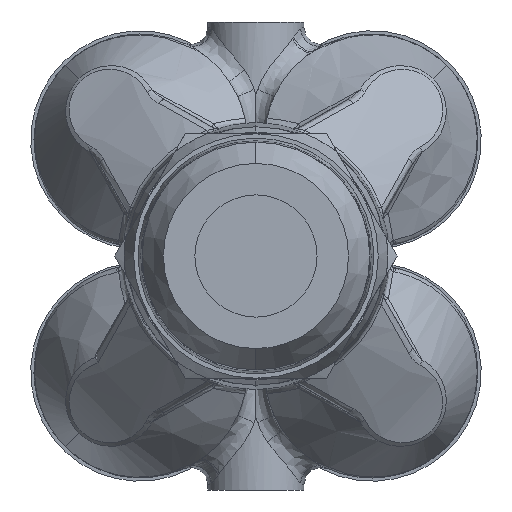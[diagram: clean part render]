
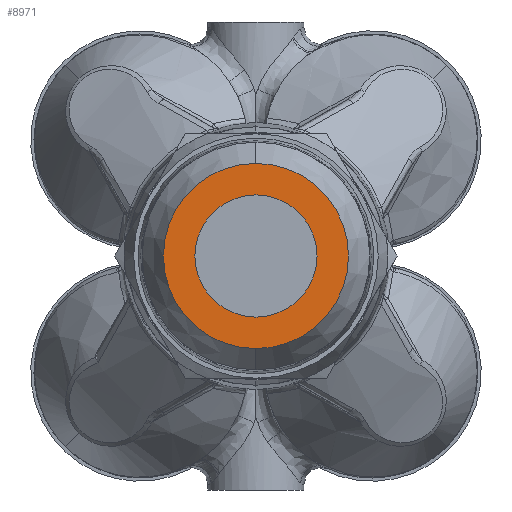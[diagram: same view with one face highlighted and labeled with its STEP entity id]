
A CAD part, front view. The second image highlights one B-rep face of the part: STEP entity #8971.
In plain terms, the highlighted planar face has unit normal (0, -1, 0).
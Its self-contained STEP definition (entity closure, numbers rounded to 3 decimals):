
#103 = CARTESIAN_POINT ( 'NONE',  ( 0., -7., 0. ) ) ;
#1928 = CARTESIAN_POINT ( 'NONE',  ( 0., -7., -3.5 ) ) ;
#2160 = DIRECTION ( 'NONE',  ( 0., 0., -1. ) ) ;
#2226 = AXIS2_PLACEMENT_3D ( 'NONE', #24647, #16688, #4654 ) ;
#2585 = PLANE ( 'NONE',  #2226 ) ;
#3637 = CARTESIAN_POINT ( 'NONE',  ( 0., -7., 3.5 ) ) ;
#4330 = CARTESIAN_POINT ( 'NONE',  ( 0., -7., 0. ) ) ;
#4479 = AXIS2_PLACEMENT_3D ( 'NONE', #20012, #8004, #22025 ) ;
#4654 = DIRECTION ( 'NONE',  ( 0., 0., 1. ) ) ;
#4988 = VERTEX_POINT ( 'NONE', #1928 ) ;
#5747 = AXIS2_PLACEMENT_3D ( 'NONE', #4330, #18379, #6375 ) ;
#5958 = EDGE_LOOP ( 'NONE', ( #15157, #17093 ) ) ;
#6375 = DIRECTION ( 'NONE',  ( 0., 0., -1. ) ) ;
#7109 = CARTESIAN_POINT ( 'NONE',  ( 0., -7., 5.3 ) ) ;
#7836 = CIRCLE ( 'NONE', #22224, 3.5 ) ;
#8004 = DIRECTION ( 'NONE',  ( 0., 1., 0. ) ) ;
#8971 = ADVANCED_FACE ( 'Defeature completata1_395', ( #9750, #10988 ), #2585, .F. ) ;
#9010 = CIRCLE ( 'NONE', #4479, 5.3 ) ;
#9636 = EDGE_CURVE ( 'NONE', #19230, #4988, #17613, .T. ) ;
#9750 = FACE_BOUND ( 'NONE', #5958, .T. ) ;
#10763 = EDGE_CURVE ( 'Defeature completata1_396+Defeature completata1_395+Defeature completata1_395+Defeature completata1_395', #25323, #13803, #13787, .T. ) ;
#10915 = EDGE_CURVE ( 'NONE', #4988, #19230, #7836, .T. ) ;
#10988 = FACE_OUTER_BOUND ( 'NONE', #25441, .T. ) ;
#11206 = DIRECTION ( 'NONE',  ( 0., 1., 0. ) ) ;
#13787 = CIRCLE ( 'NONE', #20877, 5.3 ) ;
#13803 = VERTEX_POINT ( 'NONE', #7109 ) ;
#13950 = CARTESIAN_POINT ( 'NONE',  ( 0., -7., -5.3 ) ) ;
#14155 = DIRECTION ( 'NONE',  ( 0., -1., 0. ) ) ;
#15157 = ORIENTED_EDGE ( 'NONE', *, *, #10915, .F. ) ;
#16688 = DIRECTION ( 'NONE',  ( 0., 1., 0. ) ) ;
#17093 = ORIENTED_EDGE ( 'NONE', *, *, #9636, .F. ) ;
#17613 = CIRCLE ( 'NONE', #5747, 3.5 ) ;
#17764 = ORIENTED_EDGE ( 'NONE', *, *, #10763, .F. ) ;
#18379 = DIRECTION ( 'NONE',  ( 0., -1., 0. ) ) ;
#18534 = EDGE_CURVE ( 'Defeature completata1_396+Defeature completata1_395+Defeature completata1_395+Defeature completata1_395', #13803, #25323, #9010, .T. ) ;
#19230 = VERTEX_POINT ( 'NONE', #3637 ) ;
#20012 = CARTESIAN_POINT ( 'NONE',  ( 0., -7., 0. ) ) ;
#20877 = AXIS2_PLACEMENT_3D ( 'NONE', #23242, #11206, #25243 ) ;
#22025 = DIRECTION ( 'NONE',  ( 0., 0., 1. ) ) ;
#22224 = AXIS2_PLACEMENT_3D ( 'NONE', #103, #14155, #2160 ) ;
#23242 = CARTESIAN_POINT ( 'NONE',  ( 0., -7., 0. ) ) ;
#24647 = CARTESIAN_POINT ( 'NONE',  ( 0., -7., 0. ) ) ;
#25243 = DIRECTION ( 'NONE',  ( 0., 0., 1. ) ) ;
#25323 = VERTEX_POINT ( 'NONE', #13950 ) ;
#25441 = EDGE_LOOP ( 'NONE', ( #26045, #17764 ) ) ;
#26045 = ORIENTED_EDGE ( 'NONE', *, *, #18534, .F. ) ;
